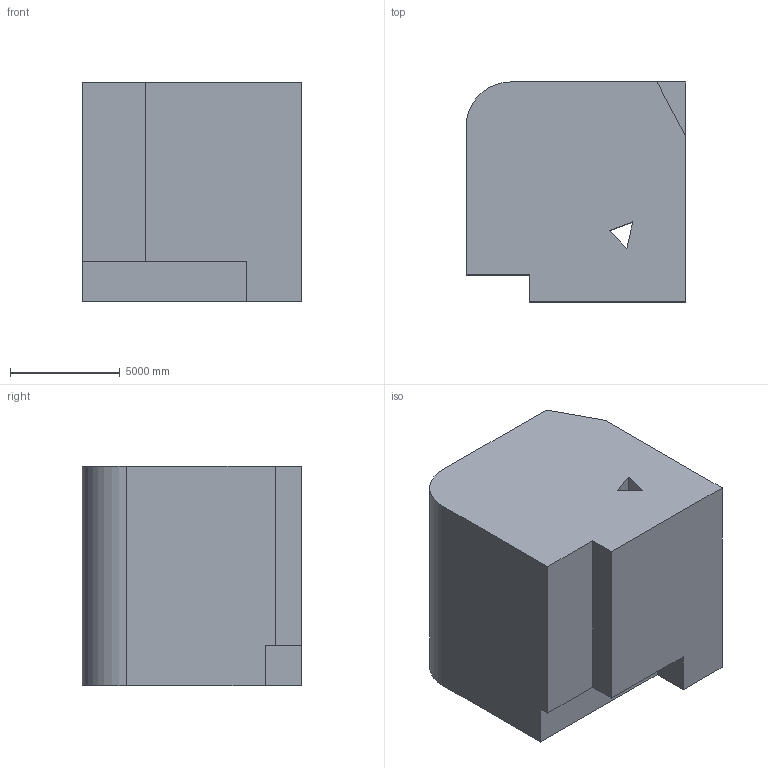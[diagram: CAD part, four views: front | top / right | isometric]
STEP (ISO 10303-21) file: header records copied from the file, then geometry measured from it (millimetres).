
FILE_DESCRIPTION (( 'STEP AP203' ), '1' );
FILE_NAME ('92.STEP', '2022-08-31T11:31:05', ( 'user' ), ( '' ), 'SwSTEP 2.0', 'SolidWorks 2021', '' );
FILE_SCHEMA (( 'CONFIG_CONTROL_DESIGN' ));
Length unit declared in the file: centimetre
Products named in the file (1): 92
Bounding box: 10000 x 10000 x 10000 mm (x, y, z)
Volume: 930555528382.9 mm3; surface area: 614603560.8 mm2
Topology: 1 solids, 1 shells, 17 faces, 45 edges, 30 vertices
Faces by surface type: plane 16, cylinder 1
Entity records: 602 total; most frequent: CARTESIAN_POINT 93, ORIENTED_EDGE 90, DIRECTION 83, EDGE_CURVE 45, LINE 43, VECTOR 43, VERTEX_POINT 30, AXIS2_PLACEMENT_3D 20
